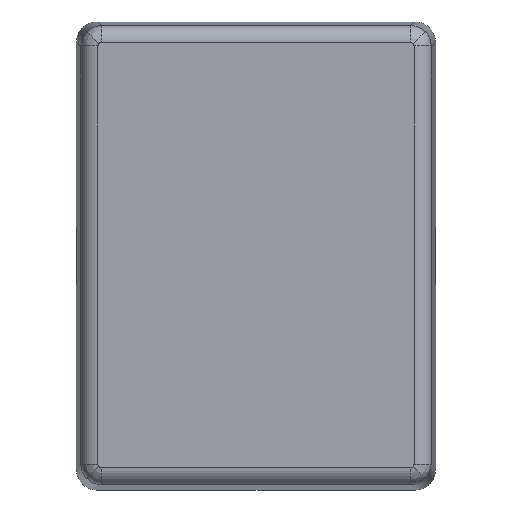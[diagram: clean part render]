
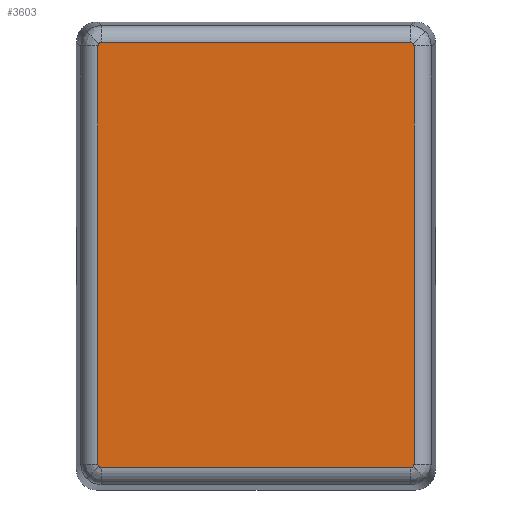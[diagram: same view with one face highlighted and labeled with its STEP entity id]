
A CAD part, top view. The second image highlights one B-rep face of the part: STEP entity #3603.
In plain terms, the highlighted planar face has unit normal (0, 0, 1).
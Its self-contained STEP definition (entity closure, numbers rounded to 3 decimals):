
#68=ELLIPSE('',#3854,0.185,0.17);
#70=ELLIPSE('',#3858,0.185,0.17);
#72=ELLIPSE('',#3862,0.185,0.17);
#74=ELLIPSE('',#3866,0.185,0.17);
#76=ELLIPSE('',#3889,0.185,0.17);
#77=ELLIPSE('',#3890,0.185,0.17);
#78=ELLIPSE('',#3891,0.185,0.17);
#79=ELLIPSE('',#3892,0.185,0.17);
#294=FACE_OUTER_BOUND('',#501,.T.);
#501=EDGE_LOOP('',(#2609,#2610,#2611,#2612,#2613,#2614,#2615,#2616,#2617,
#2618,#2619,#2620));
#772=LINE('',#5528,#1174);
#773=LINE('',#5531,#1175);
#774=LINE('',#5534,#1176);
#775=LINE('',#5537,#1177);
#1174=VECTOR('',#4337,1000.);
#1175=VECTOR('',#4340,1000.);
#1176=VECTOR('',#4343,1000.);
#1177=VECTOR('',#4346,1000.);
#1612=VERTEX_POINT('',#5138);
#1613=VERTEX_POINT('',#5139);
#1616=VERTEX_POINT('',#5158);
#1617=VERTEX_POINT('',#5159);
#1620=VERTEX_POINT('',#5178);
#1621=VERTEX_POINT('',#5179);
#1624=VERTEX_POINT('',#5198);
#1625=VERTEX_POINT('',#5199);
#1720=VERTEX_POINT('',#5527);
#1721=VERTEX_POINT('',#5530);
#1722=VERTEX_POINT('',#5533);
#1723=VERTEX_POINT('',#5536);
#1955=EDGE_CURVE('',#1612,#1613,#68,.T.);
#1959=EDGE_CURVE('',#1616,#1617,#70,.T.);
#1963=EDGE_CURVE('',#1620,#1621,#72,.T.);
#1967=EDGE_CURVE('',#1624,#1625,#74,.T.);
#2067=EDGE_CURVE('',#1624,#1720,#772,.T.);
#2068=EDGE_CURVE('',#1621,#1720,#76,.T.);
#2069=EDGE_CURVE('',#1620,#1721,#773,.T.);
#2070=EDGE_CURVE('',#1617,#1721,#77,.T.);
#2071=EDGE_CURVE('',#1616,#1722,#774,.T.);
#2072=EDGE_CURVE('',#1613,#1722,#78,.T.);
#2073=EDGE_CURVE('',#1612,#1723,#775,.T.);
#2074=EDGE_CURVE('',#1625,#1723,#79,.T.);
#2609=ORIENTED_EDGE('',*,*,#1967,.F.);
#2610=ORIENTED_EDGE('',*,*,#2067,.T.);
#2611=ORIENTED_EDGE('',*,*,#2068,.F.);
#2612=ORIENTED_EDGE('',*,*,#1963,.F.);
#2613=ORIENTED_EDGE('',*,*,#2069,.T.);
#2614=ORIENTED_EDGE('',*,*,#2070,.F.);
#2615=ORIENTED_EDGE('',*,*,#1959,.F.);
#2616=ORIENTED_EDGE('',*,*,#2071,.T.);
#2617=ORIENTED_EDGE('',*,*,#2072,.F.);
#2618=ORIENTED_EDGE('',*,*,#1955,.F.);
#2619=ORIENTED_EDGE('',*,*,#2073,.T.);
#2620=ORIENTED_EDGE('',*,*,#2074,.F.);
#3427=PLANE('',#3888);
#3603=ADVANCED_FACE('',(#294),#3427,.F.);
#3854=AXIS2_PLACEMENT_3D('',#5140,#4201,#4202);
#3858=AXIS2_PLACEMENT_3D('',#5160,#4209,#4210);
#3862=AXIS2_PLACEMENT_3D('',#5180,#4217,#4218);
#3866=AXIS2_PLACEMENT_3D('',#5200,#4225,#4226);
#3888=AXIS2_PLACEMENT_3D('',#5526,#4335,#4336);
#3889=AXIS2_PLACEMENT_3D('',#5529,#4338,#4339);
#3890=AXIS2_PLACEMENT_3D('',#5532,#4341,#4342);
#3891=AXIS2_PLACEMENT_3D('',#5535,#4344,#4345);
#3892=AXIS2_PLACEMENT_3D('',#5538,#4347,#4348);
#4201=DIRECTION('center_axis',(0.,0.,-1.));
#4202=DIRECTION('ref_axis',(0.382,0.924,0.));
#4209=DIRECTION('center_axis',(0.,0.,-1.));
#4210=DIRECTION('ref_axis',(0.924,-0.382,0.));
#4217=DIRECTION('center_axis',(0.,0.,-1.));
#4218=DIRECTION('ref_axis',(0.382,0.924,0.));
#4225=DIRECTION('center_axis',(0.,0.,-1.));
#4226=DIRECTION('ref_axis',(0.924,-0.382,0.));
#4335=DIRECTION('center_axis',(0.,0.,-1.));
#4336=DIRECTION('ref_axis',(-1.,0.,0.));
#4337=DIRECTION('',(-1.,0.,0.));
#4338=DIRECTION('center_axis',(0.,0.,-1.));
#4339=DIRECTION('ref_axis',(0.924,0.382,0.));
#4340=DIRECTION('',(0.,-1.,0.));
#4341=DIRECTION('center_axis',(0.,0.,-1.));
#4342=DIRECTION('ref_axis',(-0.382,0.924,0.));
#4343=DIRECTION('',(1.,0.,0.));
#4344=DIRECTION('center_axis',(0.,0.,-1.));
#4345=DIRECTION('ref_axis',(0.924,0.382,0.));
#4346=DIRECTION('',(0.,1.,0.));
#4347=DIRECTION('center_axis',(0.,0.,-1.));
#4348=DIRECTION('ref_axis',(-0.382,0.924,0.));
#5138=CARTESIAN_POINT('',(9.288,-12.288,31.));
#5139=CARTESIAN_POINT('',(9.23,-12.43,31.));
#5140=CARTESIAN_POINT('Origin',(9.116,-12.3,31.));
#5158=CARTESIAN_POINT('',(-9.088,-12.488,31.));
#5159=CARTESIAN_POINT('',(-9.23,-12.43,31.));
#5160=CARTESIAN_POINT('Origin',(-9.1,-12.316,31.));
#5178=CARTESIAN_POINT('',(-9.288,12.288,31.));
#5179=CARTESIAN_POINT('',(-9.23,12.43,31.));
#5180=CARTESIAN_POINT('Origin',(-9.116,12.3,31.));
#5198=CARTESIAN_POINT('',(9.088,12.488,31.));
#5199=CARTESIAN_POINT('',(9.23,12.43,31.));
#5200=CARTESIAN_POINT('Origin',(9.1,12.316,31.));
#5526=CARTESIAN_POINT('Origin',(0.,0.,31.));
#5527=CARTESIAN_POINT('',(-9.088,12.488,31.));
#5528=CARTESIAN_POINT('',(0.,12.488,31.));
#5529=CARTESIAN_POINT('Origin',(-9.1,12.316,31.));
#5530=CARTESIAN_POINT('',(-9.288,-12.288,31.));
#5531=CARTESIAN_POINT('',(-9.288,0.,31.));
#5532=CARTESIAN_POINT('Origin',(-9.116,-12.3,31.));
#5533=CARTESIAN_POINT('',(9.088,-12.488,31.));
#5534=CARTESIAN_POINT('',(0.,-12.488,31.));
#5535=CARTESIAN_POINT('Origin',(9.1,-12.316,31.));
#5536=CARTESIAN_POINT('',(9.288,12.288,31.));
#5537=CARTESIAN_POINT('',(9.288,0.,31.));
#5538=CARTESIAN_POINT('Origin',(9.116,12.3,31.));
